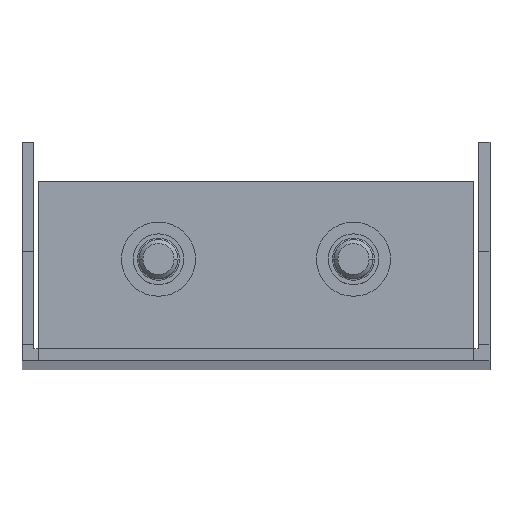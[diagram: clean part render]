
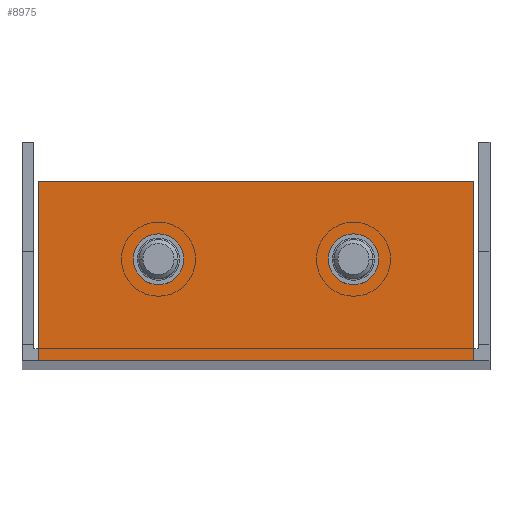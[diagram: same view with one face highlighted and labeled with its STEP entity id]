
A CAD part, top view. The second image highlights one B-rep face of the part: STEP entity #8975.
In plain terms, the highlighted planar face has unit normal (0, 0, 1).
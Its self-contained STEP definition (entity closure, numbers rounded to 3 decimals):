
#2578 = VERTEX_POINT('',#2579);
#2579 = CARTESIAN_POINT('',(-9.25,13.,344.5));
#2585 = EDGE_CURVE('',#2586,#2578,#2588,.T.);
#2586 = VERTEX_POINT('',#2587);
#2587 = CARTESIAN_POINT('',(-15.75,13.,344.5));
#2588 = CIRCLE('',#2589,3.25);
#2589 = AXIS2_PLACEMENT_3D('',#2590,#2591,#2592);
#2590 = CARTESIAN_POINT('',(-12.5,13.,344.5));
#2591 = DIRECTION('',(0.,0.,1.));
#2592 = DIRECTION('',(1.,0.,-0.));
#2620 = VERTEX_POINT('',#2621);
#2621 = CARTESIAN_POINT('',(15.75,13.,344.5));
#2627 = EDGE_CURVE('',#2628,#2620,#2630,.T.);
#2628 = VERTEX_POINT('',#2629);
#2629 = CARTESIAN_POINT('',(9.25,13.,344.5));
#2630 = CIRCLE('',#2631,3.25);
#2631 = AXIS2_PLACEMENT_3D('',#2632,#2633,#2634);
#2632 = CARTESIAN_POINT('',(12.5,13.,344.5));
#2633 = DIRECTION('',(0.,0.,1.));
#2634 = DIRECTION('',(-1.,0.,0.));
#6301 = VERTEX_POINT('',#6302);
#6302 = CARTESIAN_POINT('',(-27.9,0.,344.5));
#6372 = VERTEX_POINT('',#6373);
#6373 = CARTESIAN_POINT('',(27.9,0.,344.5));
#6379 = EDGE_CURVE('',#6301,#6372,#6380,.T.);
#6380 = LINE('',#6381,#6382);
#6381 = CARTESIAN_POINT('',(-30.,0.,344.5));
#6382 = VECTOR('',#6383,1.);
#6383 = DIRECTION('',(1.,0.,0.));
#8854 = VERTEX_POINT('',#8855);
#8855 = CARTESIAN_POINT('',(-27.9,2.1,344.5));
#8870 = EDGE_CURVE('',#8854,#6301,#8871,.T.);
#8871 = LINE('',#8872,#8873);
#8872 = CARTESIAN_POINT('',(-27.9,2.1,344.5));
#8873 = VECTOR('',#8874,1.);
#8874 = DIRECTION('',(0.,-1.,0.));
#8894 = VERTEX_POINT('',#8895);
#8895 = CARTESIAN_POINT('',(27.9,2.1,344.5));
#8901 = EDGE_CURVE('',#8894,#6372,#8902,.T.);
#8902 = LINE('',#8903,#8904);
#8903 = CARTESIAN_POINT('',(27.9,0.,344.5));
#8904 = VECTOR('',#8905,1.);
#8905 = DIRECTION('',(-0.,-1.,-0.));
#8927 = VERTEX_POINT('',#8928);
#8928 = CARTESIAN_POINT('',(27.9,23.,344.5));
#8934 = EDGE_CURVE('',#8894,#8927,#8935,.T.);
#8935 = LINE('',#8936,#8937);
#8936 = CARTESIAN_POINT('',(27.9,0.,344.5));
#8937 = VECTOR('',#8938,1.);
#8938 = DIRECTION('',(0.,1.,0.));
#8949 = EDGE_CURVE('',#8950,#8854,#8952,.T.);
#8950 = VERTEX_POINT('',#8951);
#8951 = CARTESIAN_POINT('',(-27.9,23.,344.5));
#8952 = LINE('',#8953,#8954);
#8953 = CARTESIAN_POINT('',(-27.9,0.,344.5));
#8954 = VECTOR('',#8955,1.);
#8955 = DIRECTION('',(0.,-1.,0.));
#8975 = ADVANCED_FACE('',(#8976,#8986,#8996),#9009,.F.);
#8976 = FACE_BOUND('',#8977,.T.);
#8977 = EDGE_LOOP('',(#8978,#8985));
#8978 = ORIENTED_EDGE('',*,*,#8979,.F.);
#8979 = EDGE_CURVE('',#2578,#2586,#8980,.T.);
#8980 = CIRCLE('',#8981,3.25);
#8981 = AXIS2_PLACEMENT_3D('',#8982,#8983,#8984);
#8982 = CARTESIAN_POINT('',(-12.5,13.,344.5));
#8983 = DIRECTION('',(0.,0.,1.));
#8984 = DIRECTION('',(1.,0.,-0.));
#8985 = ORIENTED_EDGE('',*,*,#2585,.F.);
#8986 = FACE_BOUND('',#8987,.T.);
#8987 = EDGE_LOOP('',(#8988,#8995));
#8988 = ORIENTED_EDGE('',*,*,#8989,.F.);
#8989 = EDGE_CURVE('',#2620,#2628,#8990,.T.);
#8990 = CIRCLE('',#8991,3.25);
#8991 = AXIS2_PLACEMENT_3D('',#8992,#8993,#8994);
#8992 = CARTESIAN_POINT('',(12.5,13.,344.5));
#8993 = DIRECTION('',(0.,0.,1.));
#8994 = DIRECTION('',(-1.,0.,0.));
#8995 = ORIENTED_EDGE('',*,*,#2627,.F.);
#8996 = FACE_BOUND('',#8997,.T.);
#8997 = EDGE_LOOP('',(#8998,#8999,#9000,#9001,#9002,#9003));
#8998 = ORIENTED_EDGE('',*,*,#8949,.T.);
#8999 = ORIENTED_EDGE('',*,*,#8870,.T.);
#9000 = ORIENTED_EDGE('',*,*,#6379,.T.);
#9001 = ORIENTED_EDGE('',*,*,#8901,.F.);
#9002 = ORIENTED_EDGE('',*,*,#8934,.T.);
#9003 = ORIENTED_EDGE('',*,*,#9004,.T.);
#9004 = EDGE_CURVE('',#8927,#8950,#9005,.T.);
#9005 = LINE('',#9006,#9007);
#9006 = CARTESIAN_POINT('',(0.,23.,344.5));
#9007 = VECTOR('',#9008,1.);
#9008 = DIRECTION('',(-1.,0.,0.));
#9009 = PLANE('',#9010);
#9010 = AXIS2_PLACEMENT_3D('',#9011,#9012,#9013);
#9011 = CARTESIAN_POINT('',(0.,0.,344.5));
#9012 = DIRECTION('',(0.,0.,-1.));
#9013 = DIRECTION('',(-1.,0.,-0.));
